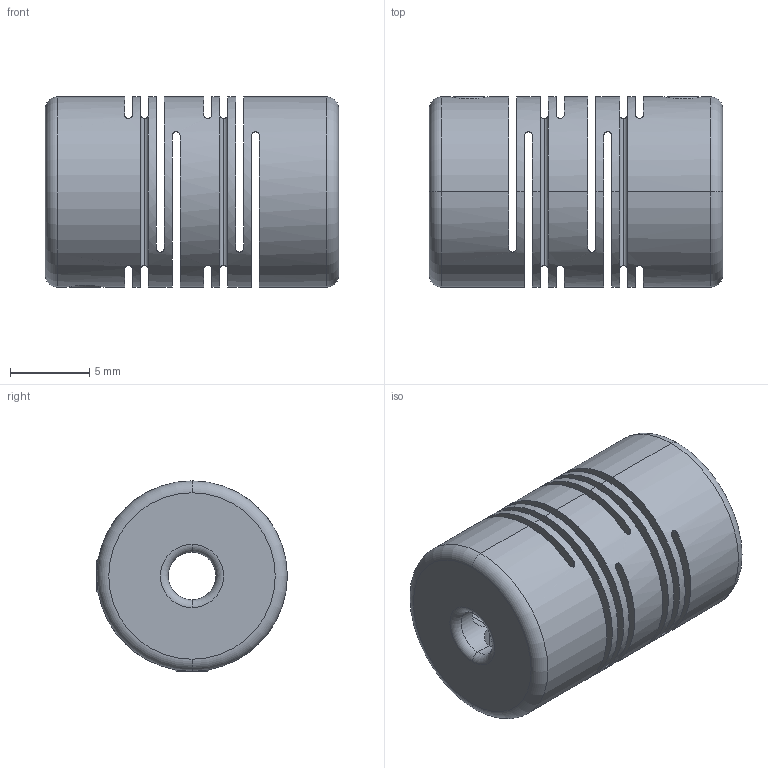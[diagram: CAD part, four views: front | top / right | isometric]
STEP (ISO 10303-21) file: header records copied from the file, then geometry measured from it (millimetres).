
FILE_DESCRIPTION (( 'STEP AP203' ), '1' );
FILE_NAME ('FSMML12-3x4.STEP', '2013-12-14T03:59:48', ( '123' ), ( '' ), 'SwSTEP 2.0', 'SolidWorks 2013', '' );
FILE_SCHEMA (( 'CONFIG_CONTROL_DESIGN' ));
Length unit declared in the file: millimetre
Products named in the file (1): FSMML12-3x4
Bounding box: 18.5 x 12 x 12 mm (x, y, z)
Surface area: 2339.7 mm2 (no closed solid volume)
Topology: 0 solids, 5 shells, 92 faces, 280 edges, 192 vertices
Faces by surface type: plane 40, cylinder 32, torus 8, bspline 6, cone 6
Entity records: 3809 total; most frequent: CARTESIAN_POINT 1237, ORIENTED_EDGE 506, DIRECTION 504, EDGE_CURVE 280, AXIS2_PLACEMENT_3D 197, VERTEX_POINT 192, EDGE_LOOP 117, VECTOR 110
